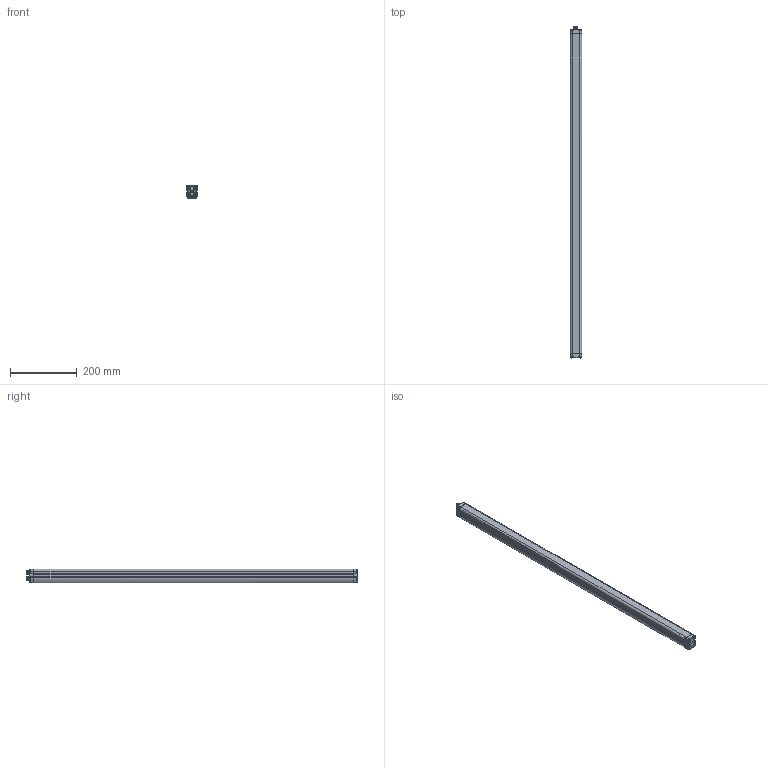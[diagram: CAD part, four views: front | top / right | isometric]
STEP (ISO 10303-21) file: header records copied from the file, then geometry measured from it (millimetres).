
FILE_DESCRIPTION((''),'2;1');
FILE_NAME('2009971','2012-01-30T',('rink'),(''),'PRO/ENGINEER BY PARAMETRIC TECHNOLOGY CORPORATION, 2011040','PRO/ENGINEER BY PARAMETRIC TECHNOLOGY CORPORATION, 2011040','');
FILE_SCHEMA(('AUTOMOTIVE_DESIGN_CC2 { 1 2 10303 214 -1 1 5 2 }'));
Products named in the file (1): 2009971
Bounding box: 35 x 991.58 x 40 mm (x, y, z)
Volume: 1209386.2 mm3; surface area: 206467.5 mm2
Topology: 1 solids, 1 shells, 2508 faces, 6702 edges, 4054 vertices
Faces by surface type: cylinder 686, extrusion 526, plane 484, bspline 356, torus 258, sphere 166, cone 32
Entity records: 186927 total; most frequent: CARTESIAN_POINT 111806, ORIENTED_EDGE 13056, DIRECTION 9001, PRESENTATION_STYLE_ASSIGNMENT 6535, STYLED_ITEM 6530, CURVE_STYLE 6529, EDGE_CURVE 6528, VERTEX_POINT 4054
